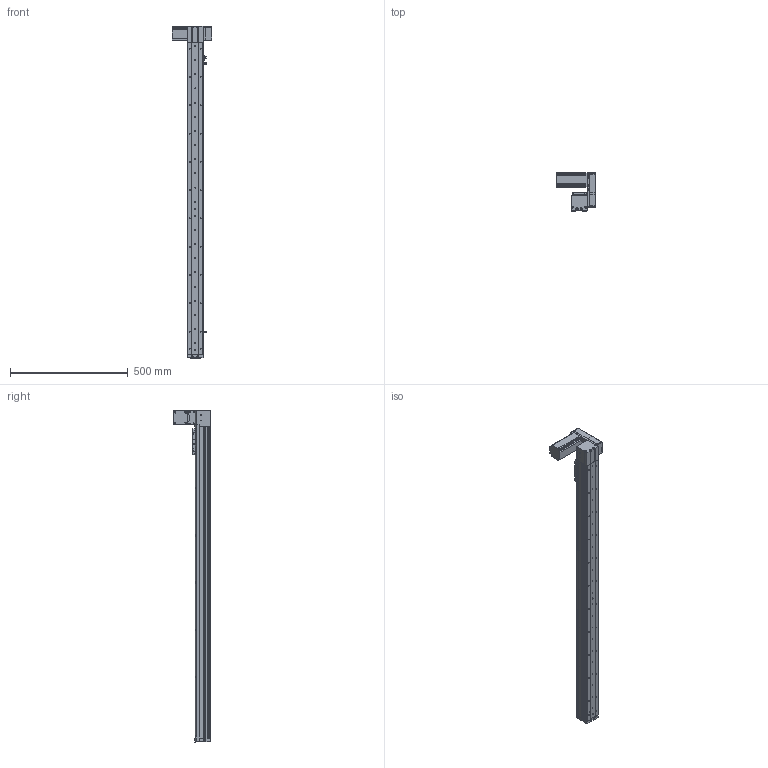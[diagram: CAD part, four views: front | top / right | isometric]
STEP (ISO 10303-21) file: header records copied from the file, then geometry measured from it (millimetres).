
FILE_DESCRIPTION (( 'STEP AP214' ), '1' );
FILE_NAME ('KSD68BS-S1150-MLU-CR.STEP', '2019-11-07T07:52:51', ( '微软用户' ), ( '微软中国' ), 'SwSTEP 2.0', 'SolidWorks 2014', '' );
FILE_SCHEMA (( 'AUTOMOTIVE_DESIGN' ));
Length unit declared in the file: millimetre
Products named in the file (14): 台达ECMA－C20604AS伺服电机（400W); KSD68BS 1150行程底板全封闭; KSD68BS-S1150-MLU-CR; 68遵裔啣揤啣1; 68宽单导轨全封闭丝杆传动安装板1防护罩; KSD68BS 1150行程盖板全封闭; KSD68BS 1150行程侧板全封闭; 68宽单导轨全封闭同步带端板; 68单导轨全封闭同步带电机座左; 68单导轨全封闭同步带安装板; 悵誘欶奻狟殏; 68宽马达安装板连板上折同步带; 感应片68宽全封闭; U倰嫖萇EEㄜSX672
Assembly tree (17 placements, depth 2):
  KSD68BS-S1150-MLU-CR
    KSD68BS 1150行程底板全封闭
    台达ECMA－C20604AS伺服电机（400W)
    U倰嫖萇EEㄜSX672  x3
    感应片68宽全封闭
    68宽马达安装板连板上折同步带
    悵誘欶奻狟殏
    68单导轨全封闭同步带安装板
    68单导轨全封闭同步带电机座左
    68宽单导轨全封闭同步带端板
    KSD68BS 1150行程侧板全封闭  x2
    68宽单导轨全封闭丝杆传动安装板1防护罩
    68遵裔啣揤啣1  x2
    KSD68BS 1150行程盖板全封闭
Bounding box: 167.2 x 159.5 x 1408.1 mm (x, y, z)
Volume: 2737892.2 mm3; surface area: 1067848.2 mm2
Topology: 18 solids, 18 shells, 1555 faces, 4445 edges, 2838 vertices
Faces by surface type: cylinder 750, plane 629, cone 176
Entity records: 49919 total; most frequent: CARTESIAN_POINT 8653, DIRECTION 7448, ORIENTED_EDGE 7126, EDGE_CURVE 3563, AXIS2_PLACEMENT_3D 2701, VERTEX_POINT 2336, VECTOR 2046, LINE 2046
